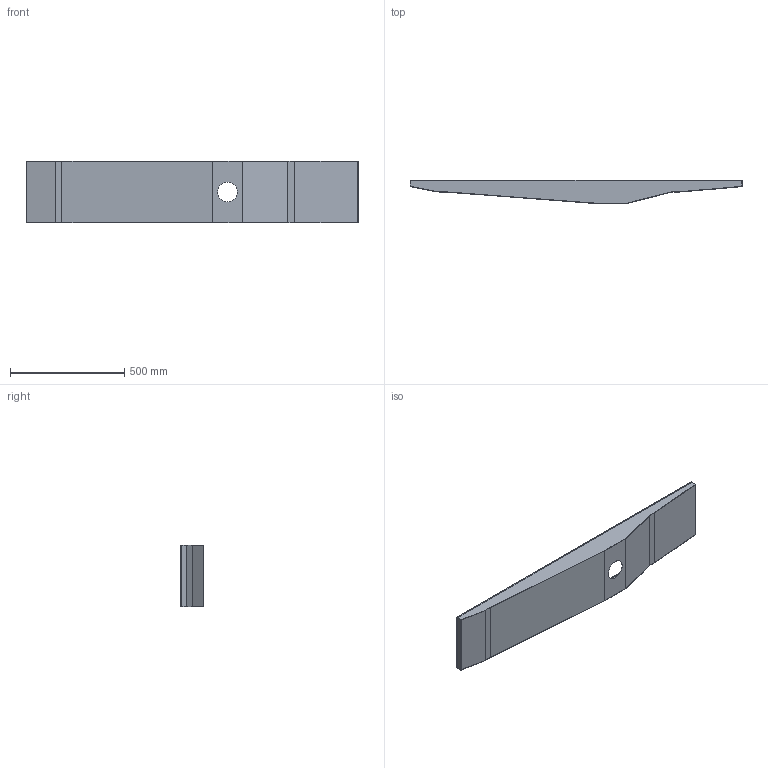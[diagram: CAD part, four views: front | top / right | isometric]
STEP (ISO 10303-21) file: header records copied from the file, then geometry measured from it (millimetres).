
FILE_DESCRIPTION (( 'STEP AP203' ), '1' );
FILE_NAME ('FB-010-23B諉阨羞.STEP', '2025-03-19T03:33:56', ( 'Windows 蚚誧' ), ( 'Organization' ), 'SwSTEP 2.0', 'SolidWorks 2020', '' );
FILE_SCHEMA (( 'CONFIG_CONTROL_DESIGN' ));
Length unit declared in the file: millimetre
Products named in the file (4): 芃え祥凄詩諉阨羞-2-145; 芃え祥凄詩諉阨羞-3-145; 芃え祥凄詩諉阨羞-1-145; FB-010-23B諉阨羞
Assembly tree (3 placements, depth 2):
  FB-010-23B諉阨羞
    芃え祥凄詩諉阨羞-1-145
    芃え祥凄詩諉阨羞-2-145
    芃え祥凄詩諉阨羞-3-145
Bounding box: 1450 x 101.05 x 268 mm (x, y, z)
Volume: 607290.4 mm3; surface area: 1224369.2 mm2
Topology: 3 solids, 3 shells, 136 faces, 294 edges, 164 vertices
Faces by surface type: plane 110, cylinder 26
Entity records: 3960 total; most frequent: DIRECTION 630, CARTESIAN_POINT 600, ORIENTED_EDGE 588, EDGE_CURVE 294, LINE 242, VECTOR 242, AXIS2_PLACEMENT_3D 194, VERTEX_POINT 164
